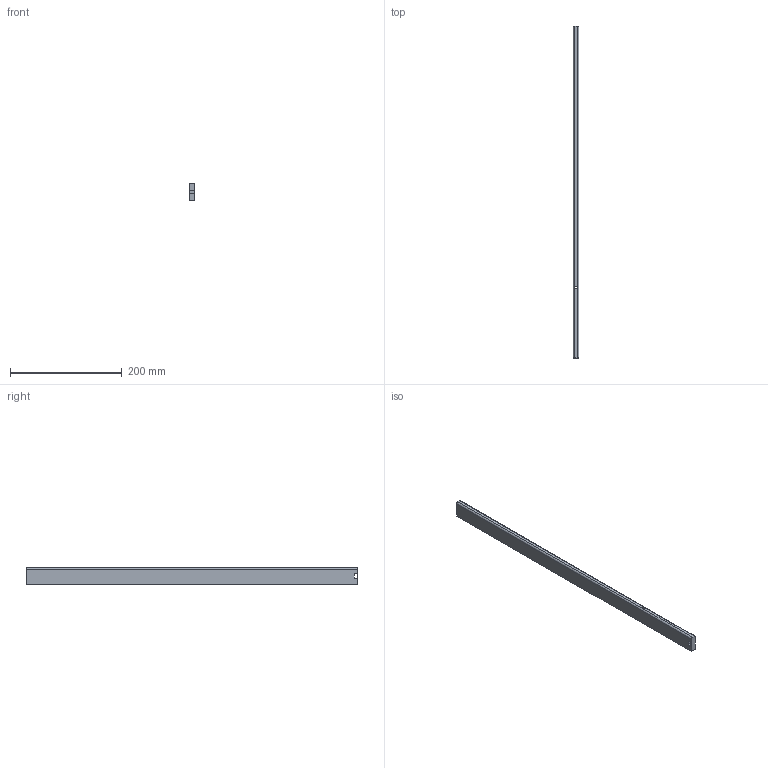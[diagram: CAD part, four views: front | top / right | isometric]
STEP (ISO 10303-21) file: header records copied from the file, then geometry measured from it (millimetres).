
FILE_DESCRIPTION (( 'STEP AP214' ), '1' );
FILE_NAME ('_Seitenreling_S760610200_RL595.step', '2010-09-06T14:51:48', ( 'grass' ), ( '' ), 'SwSTEP 2.0', 'SolidWorks 2010', '' );
FILE_SCHEMA (( 'AUTOMOTIVE_DESIGN' ));
Length unit declared in the file: millimetre
Products named in the file (1): _Seitenreling_S760610200_RL595
Bounding box: 10.5 x 595 x 30 mm (x, y, z)
Volume: 183738.9 mm3; surface area: 48004.1 mm2
Topology: 1 solids, 1 shells, 18 faces, 46 edges, 30 vertices
Faces by surface type: plane 10, cylinder 8
Entity records: 594 total; most frequent: DIRECTION 102, CARTESIAN_POINT 95, ORIENTED_EDGE 92, EDGE_CURVE 46, AXIS2_PLACEMENT_3D 37, VERTEX_POINT 30, VECTOR 28, LINE 28
